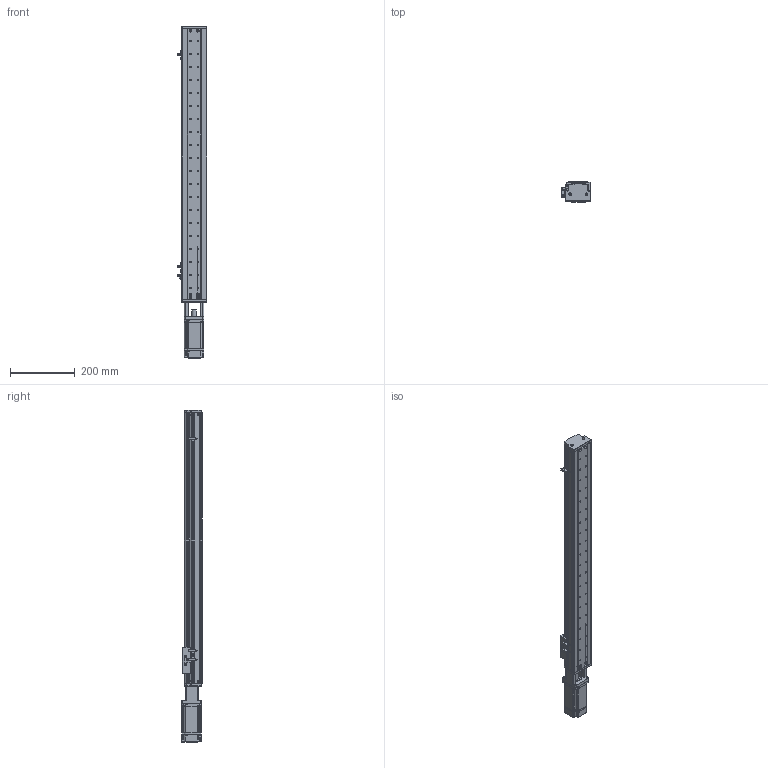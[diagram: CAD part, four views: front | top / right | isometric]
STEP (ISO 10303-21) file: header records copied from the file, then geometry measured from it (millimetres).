
FILE_DESCRIPTION (( 'STEP AP214' ), '1' );
FILE_NAME ('KSD75S-S680-MT-CM.STEP', '2019-10-18T07:34:20', ( '微软用户' ), ( '微软中国' ), 'SwSTEP 2.0', 'SolidWorks 2014', '' );
FILE_SCHEMA (( 'AUTOMOTIVE_DESIGN' ));
Length unit declared in the file: millimetre
Products named in the file (12): 100遵鎮湛假蚾啣1 ; ヶ傷啣; 75裔啣-680俴最; 75遵耀郪耜啣-680俴最; 75遵賑雄釱; MGW15H賑寢680俴最 ; 680俴最; KSD75S-S680-MT-CM; MHMD042G1CA_2_03; 覜茼え100遵圉猾敕; U倰嫖萇EEㄜSX672; 綴傷啣 
Assembly tree (14 placements, depth 3):
  KSD75S-S680-MT-CM
    MGW15H賑寢680俴最 
      680俴最
    75遵賑雄釱
    75遵耀郪耜啣-680俴最  x2
    75裔啣-680俴最
    ヶ傷啣
    100遵鎮湛假蚾啣1 
    綴傷啣 
    U倰嫖萇EEㄜSX672  x3
    覜茼え100遵圉猾敕
    MHMD042G1CA_2_03
Bounding box: 91.7 x 63 x 1023.5 mm (x, y, z)
Volume: 1027147.6 mm3; surface area: 645113.6 mm2
Topology: 12 solids, 13 shells, 1476 faces, 4149 edges, 2707 vertices
Faces by surface type: cylinder 716, plane 613, cone 129, bspline 18
Entity records: 47360 total; most frequent: CARTESIAN_POINT 8947, DIRECTION 7093, ORIENTED_EDGE 6578, EDGE_CURVE 3360, AXIS2_PLACEMENT_3D 2632, VERTEX_POINT 2225, VECTOR 1829, LINE 1829
